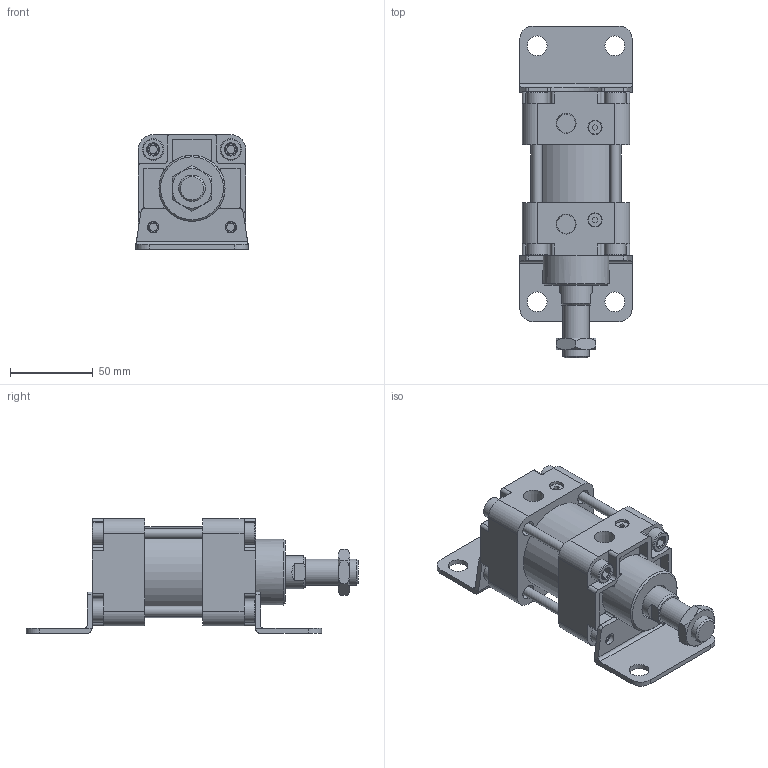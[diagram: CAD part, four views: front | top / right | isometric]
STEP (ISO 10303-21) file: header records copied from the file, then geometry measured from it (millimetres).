
FILE_DESCRIPTION(/* description */ ('Unknown'),/* implementation_level */ '2;1');
FILE_NAME(/* name */ 'WA50-0-LB',/* time_stamp */ '2026-07-17T16:52:23+08:00',/* author */ ('Unknown'),/* organization */ ('Unknown'),/* preprocessor_version */ 'ST-DEVELOPER v16.7',/* originating_system */ 'DEX',/* authorisation */ $);
FILE_SCHEMA (('CONFIG_CONTROL_DESIGN'));
Length unit declared in the file: millimetre
Products named in the file (8): WA50-0-LB; WA50_玡嶈搵; WA50_鋁; WA50_岃搵; WA50_､ﾟｶbｬ｡_;m^XD}; WA50_T帽牙; WA50_LB; M16-1.5P-8_螺
Assembly tree (11 placements, depth 2):
  WA50-0-LB
    WA50_玡嶈搵
    WA50_鋁
    WA50_岃搵
    WA50_､ﾟｶbｬ｡_;m^XD}
    WA50_T帽牙  x4
    WA50_LB  x2
    M16-1.5P-8_螺
Bounding box: 68 x 201 x 69.5 mm (x, y, z)
Volume: 378147 mm3; surface area: 106703.9 mm2
Topology: 11 solids, 11 shells, 408 faces, 1001 edges, 672 vertices
Faces by surface type: plane 227, cylinder 144, cone 37
Full cylindrical faces by diameter (mm): 5 x8, 6 x4, 7 x4, 8 x2, 8.5 x2, 8.8 x8, 9 x8, 12 x4, 13 x8, 14.5 x1, 16 x1, 20 x2, 40 x1, 49.5 x1, 50 x3, 55 x1
Entity records: 10055 total; most frequent: CARTESIAN_POINT 1487, DIRECTION 1458, ORIENTED_EDGE 1290, EDGE_CURVE 645, AXIS2_PLACEMENT_3D 550, VERTEX_POINT 451, EDGE_LOOP 380, FACE_BOUND 380
